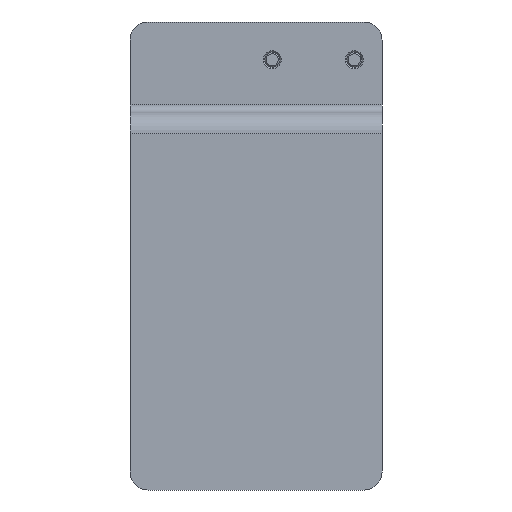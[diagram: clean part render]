
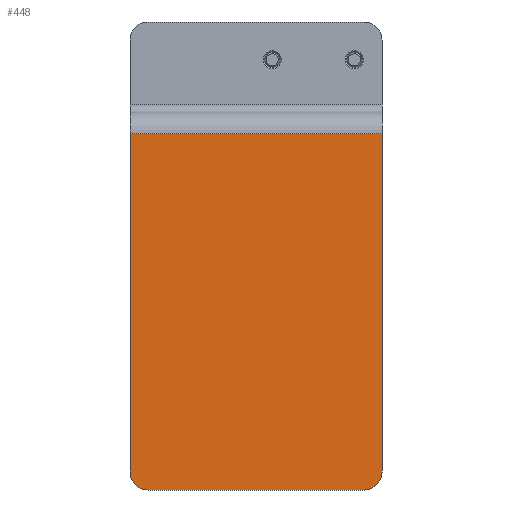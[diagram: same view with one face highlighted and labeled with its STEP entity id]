
A CAD part, front view. The second image highlights one B-rep face of the part: STEP entity #448.
In plain terms, the highlighted planar face has unit normal (0, -1, 0).
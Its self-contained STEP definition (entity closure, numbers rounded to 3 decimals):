
#128=LINE('',#2080,#228);
#129=LINE('',#2085,#229);
#130=LINE('',#2089,#230);
#131=LINE('',#2091,#231);
#228=VECTOR('',#1665,1.);
#229=VECTOR('',#1668,1.);
#230=VECTOR('',#1671,1.);
#231=VECTOR('',#1672,1.);
#319=FACE_OUTER_BOUND('',#632,.T.);
#448=ADVANCED_FACE('',(#319),#515,.F.);
#515=PLANE('',#1456);
#632=EDGE_LOOP('',(#777,#778,#779,#780,#781,#782));
#777=ORIENTED_EDGE('',*,*,#1222,.T.);
#778=ORIENTED_EDGE('',*,*,#1223,.T.);
#779=ORIENTED_EDGE('',*,*,#1224,.F.);
#780=ORIENTED_EDGE('',*,*,#1225,.T.);
#781=ORIENTED_EDGE('',*,*,#1226,.F.);
#782=ORIENTED_EDGE('',*,*,#1227,.T.);
#1092=VERTEX_POINT('',#2081);
#1093=VERTEX_POINT('',#2082);
#1094=VERTEX_POINT('',#2084);
#1095=VERTEX_POINT('',#2086);
#1096=VERTEX_POINT('',#2088);
#1097=VERTEX_POINT('',#2090);
#1222=EDGE_CURVE('',#1092,#1093,#128,.T.);
#1223=EDGE_CURVE('',#1093,#1094,#1366,.T.);
#1224=EDGE_CURVE('',#1095,#1094,#129,.T.);
#1225=EDGE_CURVE('',#1095,#1096,#1367,.T.);
#1226=EDGE_CURVE('',#1097,#1096,#130,.T.);
#1227=EDGE_CURVE('',#1097,#1092,#131,.T.);
#1366=CIRCLE('',#1454,5.);
#1367=CIRCLE('',#1455,5.);
#1454=AXIS2_PLACEMENT_3D('',#2083,#1666,#1667);
#1455=AXIS2_PLACEMENT_3D('',#2087,#1669,#1670);
#1456=AXIS2_PLACEMENT_3D('',#2092,#1673,#1674);
#1665=DIRECTION('',(0.,0.,-1.));
#1666=DIRECTION('',(0.,-1.,0.));
#1667=DIRECTION('',(0.,0.,1.));
#1668=DIRECTION('',(-1.,0.,0.));
#1669=DIRECTION('',(0.,-1.,0.));
#1670=DIRECTION('',(0.,0.,1.));
#1671=DIRECTION('',(0.,0.,-1.));
#1672=DIRECTION('',(-1.,0.,0.));
#1673=DIRECTION('',(0.,1.,0.));
#1674=DIRECTION('',(0.,0.,1.));
#2080=CARTESIAN_POINT('',(45.,-39.,46.));
#2081=CARTESIAN_POINT('',(45.,-39.,40.));
#2082=CARTESIAN_POINT('',(45.,-39.,-54.));
#2083=CARTESIAN_POINT('',(50.,-39.,-54.));
#2084=CARTESIAN_POINT('',(50.,-39.,-59.));
#2085=CARTESIAN_POINT('',(115.,-39.,-59.));
#2086=CARTESIAN_POINT('',(110.,-39.,-59.));
#2087=CARTESIAN_POINT('',(110.,-39.,-54.));
#2088=CARTESIAN_POINT('',(115.,-39.,-54.));
#2089=CARTESIAN_POINT('',(115.,-39.,46.));
#2090=CARTESIAN_POINT('',(115.,-39.,40.));
#2091=CARTESIAN_POINT('',(150.,-39.,40.));
#2092=CARTESIAN_POINT('',(150.,-39.,1.));
